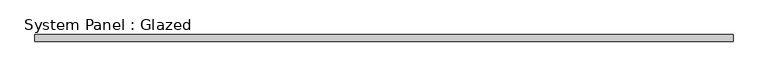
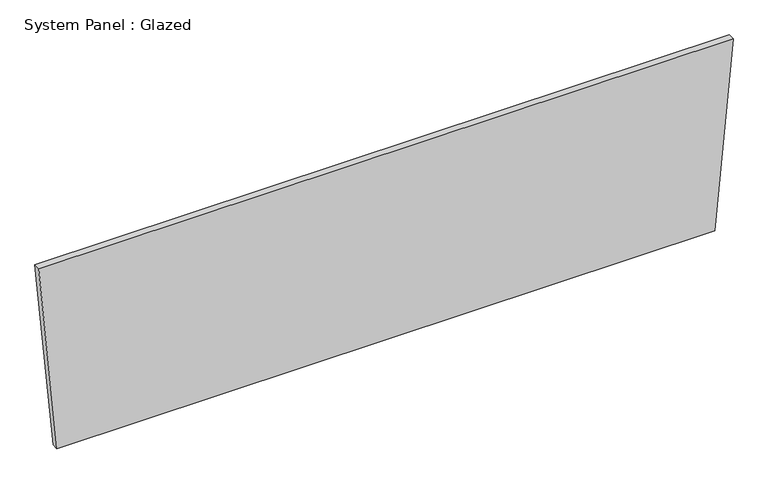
"""IFC4 building model written with IfcOpenShell, lengths in millimetres: plate geometry, System Panel : Glazed."""

from ifc_helpers import new_model, si_unit, frame, origin, place, context, project, spatial, polyline, outline, extrude, source, transform, mapped, element, save


def system_panel_glazed_15a0884d(model_context):
    return source(origin(), model_context, "Body", "SweptSolid", [
        extrude(outline(polyline([(0.0, -1268.0446486), (0.0, 1268.0446486), (758.7366017, 1338.4915735), (758.7366017, -1338.4915735), (0.0, -1268.0446486)])), frame((0.0, -44.45, 0.0), z_axis=(0.0, 1.0, 0.0), x_axis=(0.0, 0.0, 1.0)), (0.0, 0.0, 1.0), 25.4),
    ])


if __name__ == "__main__":
    model = new_model("IFC4")
    model_context = context("Model", 3, world=origin())
    ifc_project = project(units=[si_unit("LENGTHUNIT", "METRE", prefix="MILLI")], contexts=[model_context])
    site = spatial("IfcSite", under=ifc_project)
    building = spatial("IfcBuilding", under=site)
    placement = place(None, origin())
    system_panel_glazed_shape = system_panel_glazed_15a0884d(model_context)
    element("IfcPlate", 1, ObjectType="System Panel : Glazed", at=placement, inside=building, context=model_context, shape_type="MappedRepresentation", body=[
        mapped(system_panel_glazed_shape, transform((0.0, 0.0, 0.0), x_axis=(1.0, 0.0, 0.0), y_axis=(0.0, 1.0, 0.0), z_axis=(0.0, 0.0, 1.0))),
    ])
    save(model, "model.ifc")
